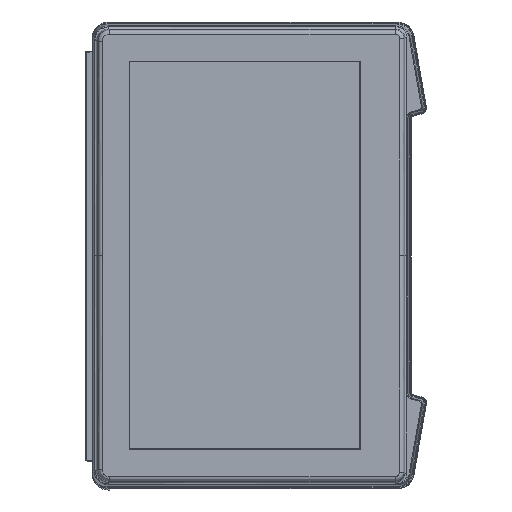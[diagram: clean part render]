
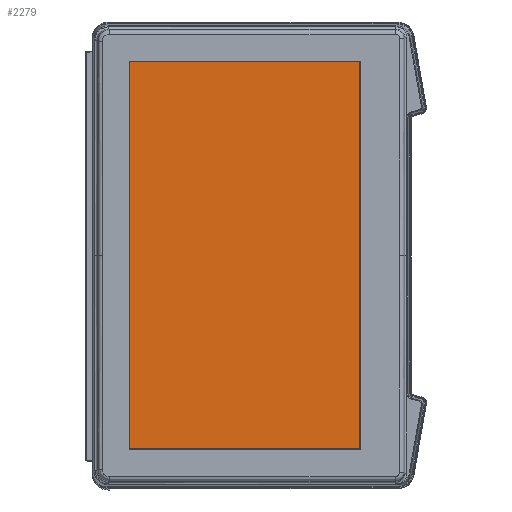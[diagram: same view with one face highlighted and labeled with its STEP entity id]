
A CAD part, top view. The second image highlights one B-rep face of the part: STEP entity #2279.
In plain terms, the highlighted planar face has unit normal (0, 0, 1).
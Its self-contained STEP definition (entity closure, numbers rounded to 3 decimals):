
#2279=ADVANCED_FACE('',(#3779),#3388,.F.);
#3388=PLANE('',#20518);
#3779=FACE_OUTER_BOUND('',#4990,.T.);
#4990=EDGE_LOOP('',(#7648,#7649,#7650,#7651));
#7648=ORIENTED_EDGE('',*,*,#15431,.F.);
#7649=ORIENTED_EDGE('',*,*,#15432,.F.);
#7650=ORIENTED_EDGE('',*,*,#14977,.T.);
#7651=ORIENTED_EDGE('',*,*,#15118,.F.);
#13099=VERTEX_POINT('',#28967);
#13100=VERTEX_POINT('',#28968);
#13223=VERTEX_POINT('',#30392);
#13440=VERTEX_POINT('',#34955);
#14977=EDGE_CURVE('',#13099,#13100,#17874,.T.);
#15118=EDGE_CURVE('',#13223,#13100,#17941,.T.);
#15431=EDGE_CURVE('',#13440,#13223,#18085,.T.);
#15432=EDGE_CURVE('',#13099,#13440,#18086,.T.);
#17874=LINE('',#28966,#19120);
#17941=LINE('',#30394,#19187);
#18085=LINE('',#34954,#19331);
#18086=LINE('',#34956,#19332);
#19120=VECTOR('',#21880,1.);
#19187=VECTOR('',#22013,1.);
#19331=VECTOR('',#22377,1.);
#19332=VECTOR('',#22378,1.);
#20518=AXIS2_PLACEMENT_3D('',#34957,#22379,#22380);
#21880=DIRECTION('',(0.,1.,0.));
#22013=DIRECTION('',(1.,0.,0.));
#22377=DIRECTION('',(0.,1.,0.));
#22378=DIRECTION('',(-1.,0.,0.));
#22379=DIRECTION('',(0.,0.,-1.));
#22380=DIRECTION('',(1.,0.,0.));
#28966=CARTESIAN_POINT('',(370.059,-741.058,53.498));
#28967=CARTESIAN_POINT('',(370.059,-264.281,53.498));
#28968=CARTESIAN_POINT('',(370.059,264.281,53.498));
#30392=CARTESIAN_POINT('',(55.871,264.281,53.498));
#30394=CARTESIAN_POINT('',(41.153,264.281,53.498));
#34954=CARTESIAN_POINT('',(55.871,-741.058,53.498));
#34955=CARTESIAN_POINT('',(55.871,-264.281,53.498));
#34956=CARTESIAN_POINT('',(41.153,-264.281,53.498));
#34957=CARTESIAN_POINT('',(55.597,-0.813,53.498));
